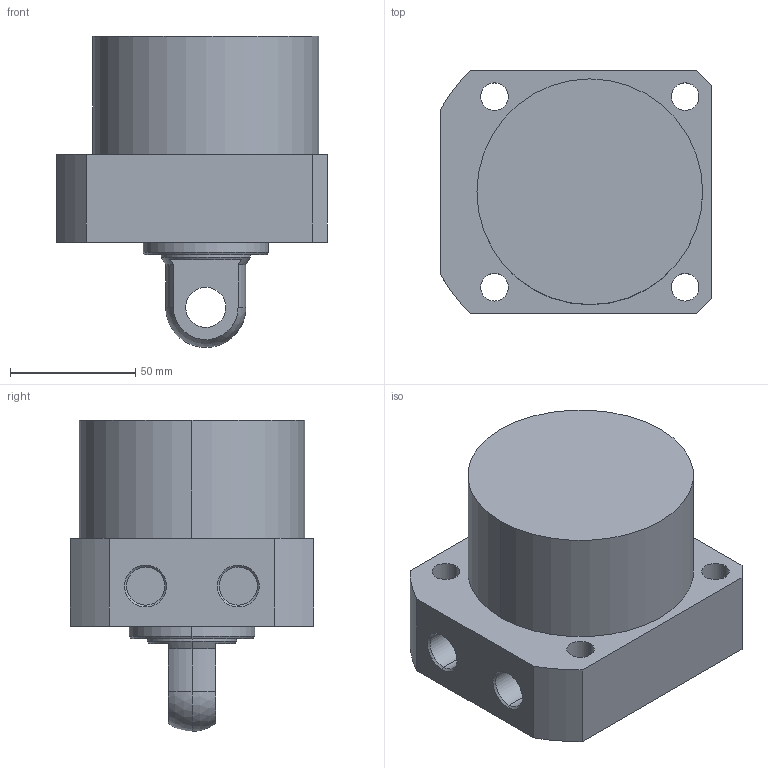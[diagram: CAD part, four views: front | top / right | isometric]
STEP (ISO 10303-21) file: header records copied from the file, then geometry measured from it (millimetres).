
FILE_DESCRIPTION (( 'STEP AP203' ), '1' );
FILE_NAME ('CLLR-090CP-025.STEP', '2019-12-19T03:21:19', ( '' ), ( '' ), 'SwSTEP 2.0', 'SolidWorks 2015', '' );
FILE_SCHEMA (( 'CONFIG_CONTROL_DESIGN' ));
Length unit declared in the file: millimetre
Products named in the file (1): CLLR-090CP-025
Bounding box: 108 x 97 x 124 mm (x, y, z)
Volume: 661473.1 mm3; surface area: 57988.5 mm2
Topology: 1 solids, 1 shells, 57 faces, 135 edges, 87 vertices
Faces by surface type: cylinder 29, plane 18, cone 8, sphere 2
Entity records: 1770 total; most frequent: DIRECTION 319, CARTESIAN_POINT 292, ORIENTED_EDGE 270, EDGE_CURVE 135, AXIS2_PLACEMENT_3D 130, VERTEX_POINT 87, EDGE_LOOP 74, CIRCLE 72
